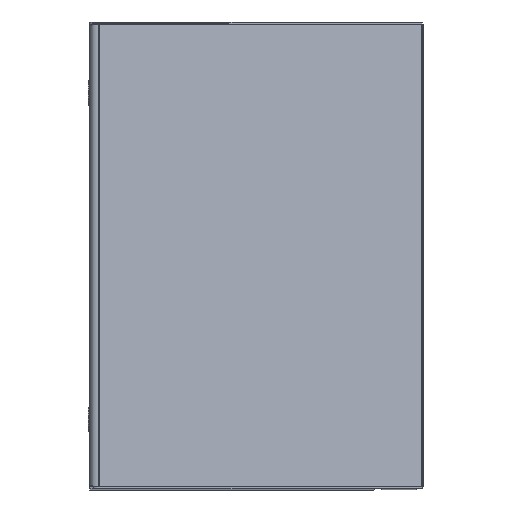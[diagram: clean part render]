
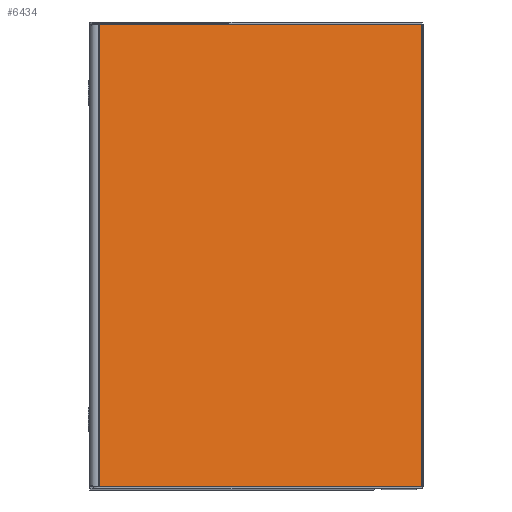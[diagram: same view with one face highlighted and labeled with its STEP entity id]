
A CAD part, top view. The second image highlights one B-rep face of the part: STEP entity #6434.
In plain terms, the highlighted planar face has unit normal (0.5, 0, 0.866).
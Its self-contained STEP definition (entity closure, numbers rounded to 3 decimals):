
#891=ORIENTED_EDGE('',*,*,#2574,.T.);
#892=ORIENTED_EDGE('',*,*,#2631,.T.);
#893=ORIENTED_EDGE('',*,*,#2635,.F.);
#894=ORIENTED_EDGE('',*,*,#2619,.F.);
#2574=EDGE_CURVE('',#3458,#3457,#4060,.T.);
#2619=EDGE_CURVE('',#3458,#3488,#4088,.F.);
#2631=EDGE_CURVE('',#3457,#3495,#4096,.T.);
#2635=EDGE_CURVE('',#3488,#3495,#4099,.T.);
#3457=VERTEX_POINT('',#11143);
#3458=VERTEX_POINT('',#11145);
#3488=VERTEX_POINT('',#11236);
#3495=VERTEX_POINT('',#11264);
#4060=LINE('',#11144,#4679);
#4088=LINE('',#11235,#4707);
#4096=LINE('',#11265,#4715);
#4099=LINE('',#11273,#4718);
#4679=VECTOR('',#9050,1000.);
#4707=VECTOR('',#9128,1000.);
#4715=VECTOR('',#9148,1000.);
#4718=VECTOR('',#9159,1000.);
#5245=EDGE_LOOP('',(#891,#892,#893,#894));
#5718=FACE_BOUND('',#5245,.T.);
#6167=PLANE('',#8275);
#6434=ADVANCED_FACE('',(#5718),#6167,.T.);
#8275=AXIS2_PLACEMENT_3D('',#11272,#9157,#9158);
#9050=DIRECTION('',(0.866,0.,-0.5));
#9128=DIRECTION('',(0.,-1.,0.));
#9148=DIRECTION('',(0.,1.,0.));
#9157=DIRECTION('',(0.5,0.,0.866));
#9158=DIRECTION('',(0.866,0.,-0.5));
#9159=DIRECTION('',(0.866,0.,-0.5));
#11143=CARTESIAN_POINT('',(213.8,-74.3,149.373));
#11144=CARTESIAN_POINT('',(0.6,-74.3,272.464));
#11145=CARTESIAN_POINT('',(5.1,-74.3,269.866));
#11235=CARTESIAN_POINT('',(5.1,0.,269.866));
#11236=CARTESIAN_POINT('',(5.1,223.1,269.866));
#11264=CARTESIAN_POINT('',(213.8,223.1,149.373));
#11265=CARTESIAN_POINT('',(213.8,-74.4,149.373));
#11272=CARTESIAN_POINT('',(0.6,-74.4,272.464));
#11273=CARTESIAN_POINT('',(0.6,223.1,272.464));
